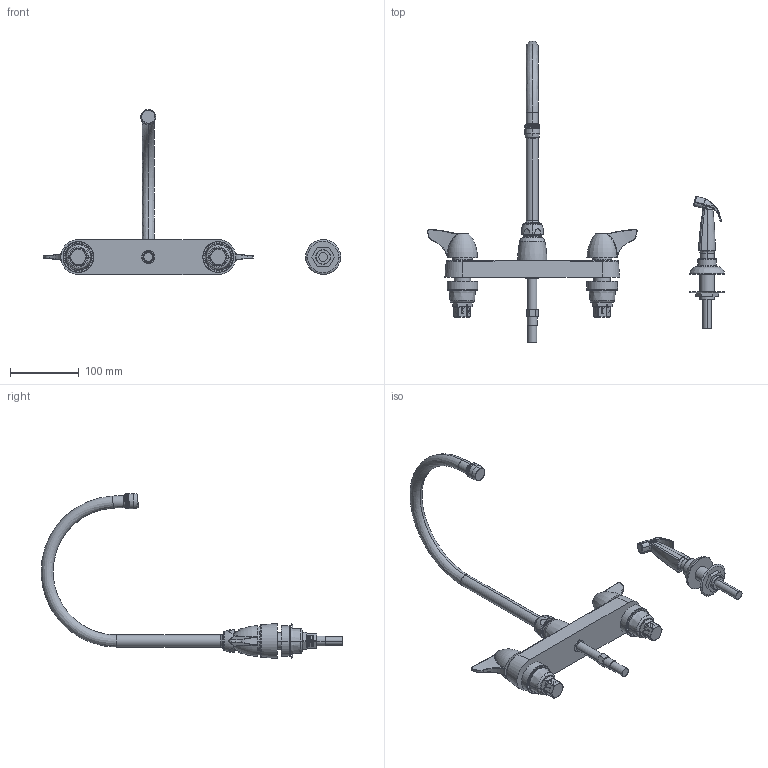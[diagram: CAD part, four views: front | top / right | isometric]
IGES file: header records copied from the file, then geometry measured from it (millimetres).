
Start section:  PTC IGES file: 1102-gn8ae35ab_REV042916.igs
Global section: file name: 1102-gn8ae35ab_REV042916.igs; native system: Creo Parametric by PTC Inc.; preprocessor: 2014500; author: dmisv; organization: Unknown; date: 20160429.112708; units: inch
Bounding box: 431.8 x 438.32 x 239.64 mm (x, y, z)
Surface area: 156787.8 mm2 (no closed solid volume)
Topology: 0 solids, 39 shells, 727 faces, 2117 edges, 1347 vertices
Faces by surface type: revolution 487, bspline 235, extrusion 5
